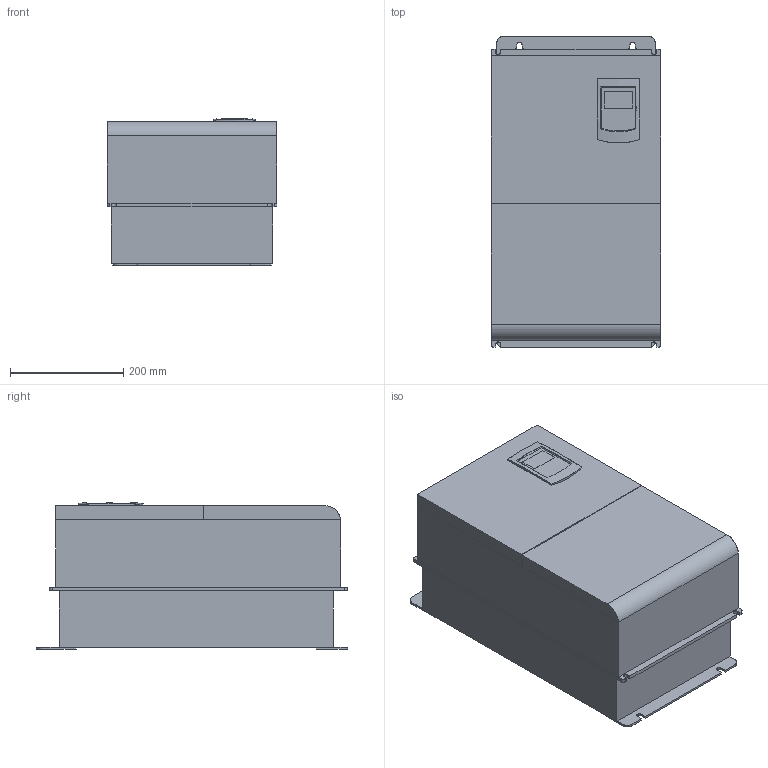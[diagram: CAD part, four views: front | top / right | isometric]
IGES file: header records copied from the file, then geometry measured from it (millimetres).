
Start section: SolidWorks IGES file using analytic representation for surfaces
Global section: file name: C:\Users\joaovictor\Desktop\CFW500F\Sem Kit Nema\CFW500F - Sem Kit Nema.IGS; native system: SolidWorks 2018; preprocessor: SolidWorks 2018; author: joaovictor; date: 220119.141530; units: millimetre
Bounding box: 300 x 550 x 259.42 mm (x, y, z)
Surface area: 1051795.5 mm2 (no closed solid volume)
Topology: 0 solids, 0 shells, 109 faces, 1196 edges, 1196 vertices
Faces by surface type: bspline 80, revolution 29
